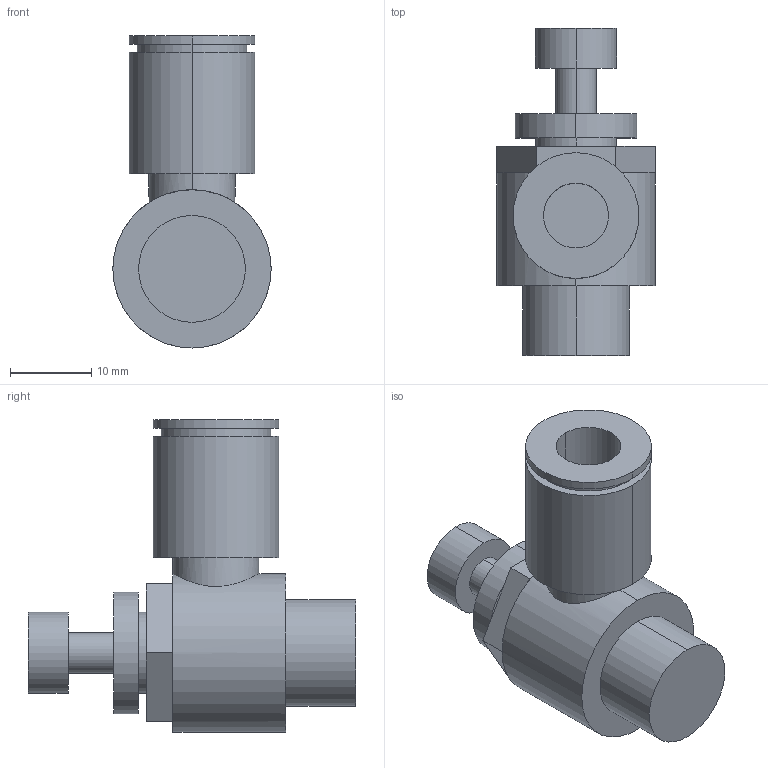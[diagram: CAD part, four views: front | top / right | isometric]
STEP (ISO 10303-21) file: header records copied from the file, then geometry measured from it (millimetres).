
FILE_DESCRIPTION( ( '' ), '1' );
FILE_NAME( 'G:/SMC狟婥/AS2201F-02-08SA.stp', '2023-03-07T03:48:50', ( '' ), ( '' ), ' ', ' ', ' ' );
FILE_SCHEMA( ( 'CONFIG_CONTROL_DESIGN' ) );
Length unit declared in the file: millimetre
Products named in the file (1): 1
Bounding box: 19.63 x 40.3 x 38.45 mm (x, y, z)
Volume: 9682.3 mm3; surface area: 4392 mm2
Topology: 1 solids, 1 shells, 52 faces, 108 edges, 67 vertices
Faces by surface type: plane 30, cylinder 22
Entity records: 1493 total; most frequent: CARTESIAN_POINT 295, DIRECTION 266, ORIENTED_EDGE 216, EDGE_CURVE 108, AXIS2_PLACEMENT_3D 107, VERTEX_POINT 67, EDGE_LOOP 61, CIRCLE 54
